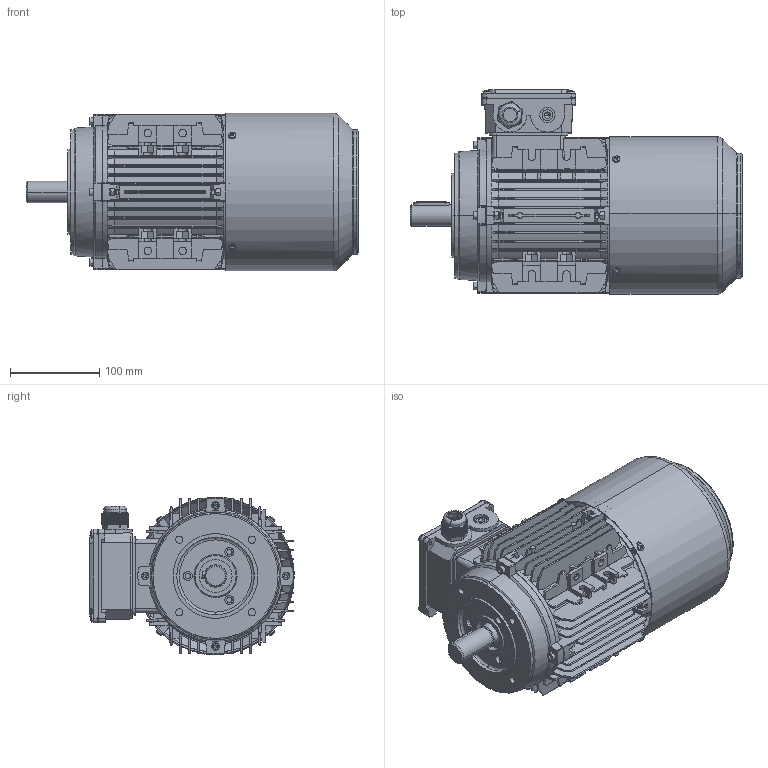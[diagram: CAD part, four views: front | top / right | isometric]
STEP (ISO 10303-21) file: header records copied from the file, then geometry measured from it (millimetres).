
FILE_DESCRIPTION (( 'STEP AP203' ), '1' );
FILE_NAME ('TB90S B14（风罩不带手柄孔）.STEP', '2021-10-22T06:31:31', ( '' ), ( '' ), 'SwSTEP 2.0', 'SolidWorks 2014', '' );
FILE_SCHEMA (( 'CONFIG_CONTROL_DESIGN' ));
Length unit declared in the file: millimetre
Products named in the file (16): Plain parallel keys_GB_CONNECTING_PIECE_KEYS_CSK 8X40; 90-4怢宒瑞珔傍杶; TB90S蛌粣; Cross recessed thread forming screws GB_GB_CROSS_SCREWS_TYPE138 M5X12-N; 80-100堤盄蹟杶; 陔諉盄碟釱80-100; Hexagon nuts grade C GB_GB_FASTENER_NUT_SNC1 M5-N; TB90S B14（风罩不带手柄孔）; TB90瑞欶ㄗ祥湍忒梟謂ㄘ; TA90B14楊擘1; Cross recessed thread forming screws GB_GB_CROSS_SCREWS_TYPE138 M4X12-N; 90怢宒瑞珔; T90S儂褲; Hexagon socket head cap screws GB_GB_FASTENER_SCREWS_HSHCS M5X25-N; TB90綴裔; 陔諉盄碟裔80-100
Assembly tree (36 placements, depth 2):
  TB90S B14（风罩不带手柄孔）
    T90S儂褲
    TB90S蛌粣
    TB90瑞欶ㄗ祥湍忒梟謂ㄘ
    TB90綴裔
    80-100堤盄蹟杶
    Cross recessed thread forming screws GB_GB_CROSS_SCREWS_TYPE138 M4X12-N  x4
    Plain parallel keys_GB_CONNECTING_PIECE_KEYS_CSK 8X40
    Hexagon nuts grade C GB_GB_FASTENER_NUT_SNC1 M5-N  x8
    Hexagon socket head cap screws GB_GB_FASTENER_SCREWS_HSHCS M5X25-N  x8
    Cross recessed thread forming screws GB_GB_CROSS_SCREWS_TYPE138 M5X12-N  x4
    TA90B14楊擘1
    陔諉盄碟裔80-100
    陔諉盄碟釱80-100
    90怢宒瑞珔
    90-4怢宒瑞珔傍杶  x2
Bounding box: 372 x 229.27 x 176.54 mm (x, y, z)
Volume: 1289125.9 mm3; surface area: 852043.8 mm2
Topology: 36 solids, 36 shells, 3652 faces, 9928 edges, 6408 vertices
Faces by surface type: plane 2304, cylinder 928, cone 211, torus 183, sphere 26
Entity records: 108938 total; most frequent: CARTESIAN_POINT 25454, ORIENTED_EDGE 17724, DIRECTION 16036, EDGE_CURVE 8862, VERTEX_POINT 5749, LINE 5616, VECTOR 5616, AXIS2_PLACEMENT_3D 5210
